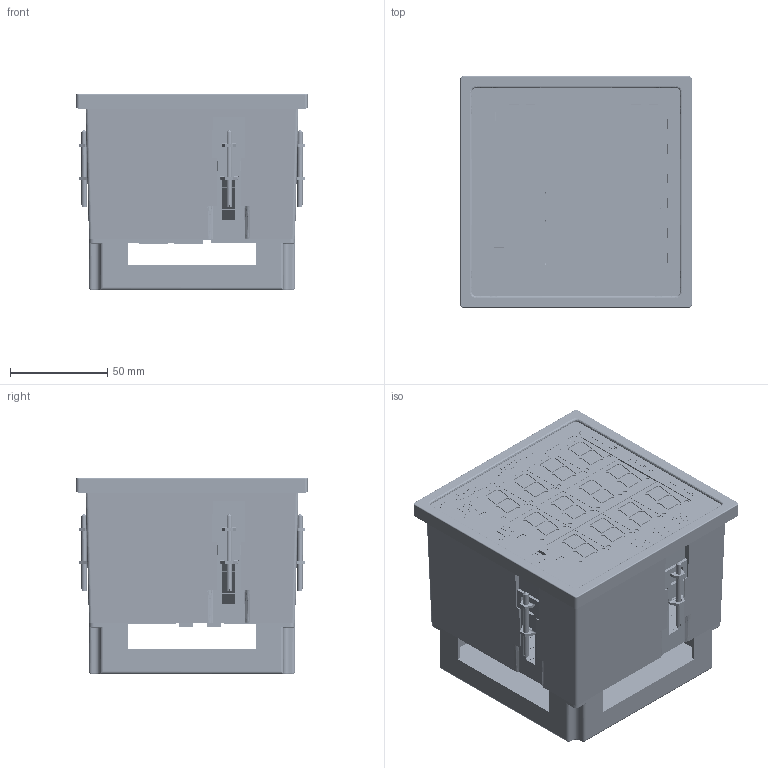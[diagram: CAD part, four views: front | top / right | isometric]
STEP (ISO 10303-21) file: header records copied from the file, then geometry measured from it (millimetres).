
FILE_DESCRIPTION (( 'STEP AP214' ), '1' );
FILE_NAME ('ñ9255tr_120x120x103.STEP', '2025-10-20T06:35:08', ( '' ), ( '' ), 'SwSTEP 2.0', 'SolidWorks 2021', '' );
FILE_SCHEMA (( 'AUTOMOTIVE_DESIGN' ));
Length unit declared in the file: millimetre
Products named in the file (67): Êîïèÿ Ñáîðêà ñêîáà ÖÔ9285^ÑáîðêàÖ9255ÒÐ_step; Êîïèÿ mark-FYS-8011^Êîïèÿ (6) Êîïèÿ indicator-FYS-8011_ÑáîðêàÖ9255ÒÐ_step; User Library-Micro USB_typeB_10118192-0001LF FCI; ñêîáà-2; RS-485-label^ﾑ碚獰9255ﾒﾐ_step; main-upper-label^ÑáîðêàÖ9255ÒÐ_step; Êîïèÿ (6) Êîïèÿ indicator-FYS-8011^ÑáîðêàÖ9255ÒÐ_step; Êîïèÿ 15EDGRC-3.5-01P^Êîïèÿ 15EDGRC-3.5-06P_ÑáîðêàÖ9255ÒÐ; 櫻蠉錪5^DG271R-5.0-6-x_step; Êîïèÿ orange-led-with-border^ÑáîðêàÖ9255ÒÐ_step; no-color-led-5; Êîïèÿ (4) Êîïèÿ indicator-FYS-8011^ÑáîðêàÖ9255ÒÐ_step; border_for_body_elc_120x120x103; Êîïèÿ mark-FYS-8011^Êîïèÿ (7) Êîïèÿ indicator-FYS-8011_ÑáîðêàÖ9255ÒÐ_step; 15EDGRC-3.5-01P; Êîïèÿ mark-FYS-8011^Êîïèÿ Êîïèÿ indicator-FYS-8011_ÑáîðêàÖ9255ÒÐ_step; 15EDGRC-3.5-06P; Êîïèÿ (7) Êîïèÿ indicator-FYS-8011^ÑáîðêàÖ9255ÒÐ_step; 3-input-label^ÑáîðêàÖ9255ÒÐ_step; Êîïèÿ mark-FYS-8011^Êîïèÿ (11) Êîïèÿ indicator-FYS-8011_ÑáîðêàÖ9255ÒÐ_step; DG271R-5.0-6-x_step; Êîïèÿ (9) Êîïèÿ indicator-FYS-8011^ÑáîðêàÖ9255ÒÐ_step; red-led-with-border_step; Êîïèÿ Êîïèÿ indicator-FYS-8011^ÑáîðêàÖ9255ÒÐ_step; 櫻蠉錪2^DG271R-5.0-6-x; Êîïèÿ (10) Êîïèÿ indicator-FYS-8011^ÑáîðêàÖ9255ÒÐ_step; 櫻蠉錪2^DG271R-5.0-2-x; Êîïèÿ mark-FYS-8011^Êîïèÿ (12) Êîïèÿ indicator-FYS-8011_ÑáîðêàÖ9255ÒÐ_step; DG271R-body_step; Êîïèÿ mark-FYS-8011^Êîïèÿ (2) Êîïèÿ indicator-FYS-8011_ÑáîðêàÖ9255ÒÐ_step; ñêîáà-2_step; Êîïèÿ 15EDGRC-3.5-01P^15EDGRC-3.5-04P; Êîïèÿ mark-FYS-8011^Êîïèÿ (4) Êîïèÿ indicator-FYS-8011_ÑáîðêàÖ9255ÒÐ_step; Êîïèÿ 15EDGVC-3.5-sidewall^15EDGRC-3.5-04P; Êîïèÿ mark-FYS-8011^Êîïèÿ (10) Êîïèÿ indicator-FYS-8011_ÑáîðêàÖ9255ÒÐ_step; Êîïèÿ mark-FYS-8011^Êîïèÿ (9) Êîïèÿ indicator-FYS-8011_ÑáîðêàÖ9255ÒÐ_step; Êîïèÿ mark-FYS-8011^Êîïèÿ (3) Êîïèÿ indicator-FYS-8011_ÑáîðêàÖ9255ÒÐ_step; Êîïèÿ 15EDGRC-3.5-06P^ÑáîðêàÖ9255ÒÐ; Êîïèÿ (3) Êîïèÿ indicator-FYS-8011^ÑáîðêàÖ9255ÒÐ_step; body_elc_120x120x103_step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
Assembly tree (122 placements, depth 3):
  Êîïèÿ mark-FYS-8011^Êîïèÿ (6) Êîïèÿ indicator-FYS-8011_ÑáîðêàÖ9255ÒÐ_step
  Êîïèÿ mark-FYS-8011^Êîïèÿ (7) Êîïèÿ indicator-FYS-8011_ÑáîðêàÖ9255ÒÐ_step
  Êîïèÿ mark-FYS-8011^Êîïèÿ Êîïèÿ indicator-FYS-8011_ÑáîðêàÖ9255ÒÐ_step
  Êîïèÿ mark-FYS-8011^Êîïèÿ (11) Êîïèÿ indicator-FYS-8011_ÑáîðêàÖ9255ÒÐ_step
  Êîïèÿ mark-FYS-8011^Êîïèÿ (12) Êîïèÿ indicator-FYS-8011_ÑáîðêàÖ9255ÒÐ_step
Bounding box: 119 x 119 x 101.11 mm (x, y, z)
Volume: 197514.5 mm3; surface area: 226717.2 mm2
Topology: 295 solids, 295 shells, 9981 faces, 25679 edges, 16578 vertices
Faces by surface type: plane 6620, cylinder 2099, bspline 1014, cone 152, sphere 84, torus 12
Entity records: 238654 total; most frequent: CARTESIAN_POINT 88131, ORIENTED_EDGE 27532, DIRECTION 20962, EDGE_CURVE 13766, VECTOR 9460, LINE 9460, VERTEX_POINT 9008, EDGE_LOOP 5760
